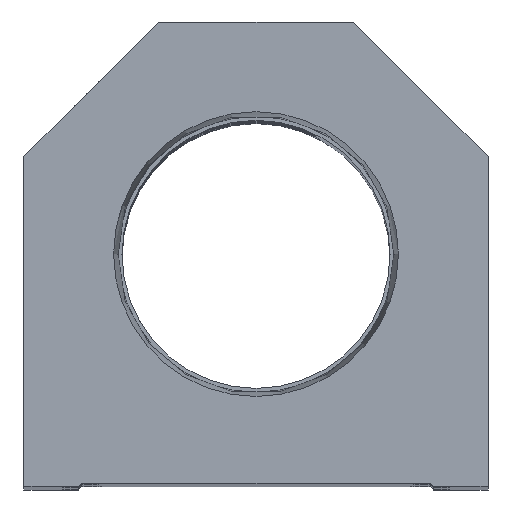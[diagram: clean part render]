
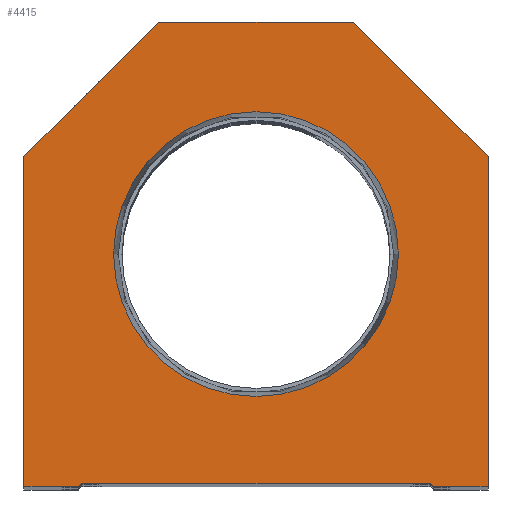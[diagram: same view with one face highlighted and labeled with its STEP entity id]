
A CAD part, top view. The second image highlights one B-rep face of the part: STEP entity #4415.
In plain terms, the highlighted planar face has unit normal (0, 0, 1).
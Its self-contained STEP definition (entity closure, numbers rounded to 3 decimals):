
#41 = DIRECTION ( 'NONE',  ( 1., 0., 0. ) ) ;
#334 = EDGE_CURVE ( 'NONE', #16894, #10172, #8206, .T. ) ;
#568 = CARTESIAN_POINT ( 'NONE',  ( -38.1, 54.1, 0. ) ) ;
#758 = VERTEX_POINT ( 'NONE', #21986 ) ;
#1358 = ORIENTED_EDGE ( 'NONE', *, *, #4092, .T. ) ;
#1848 = VERTEX_POINT ( 'NONE', #9852 ) ;
#1933 = CARTESIAN_POINT ( 'NONE',  ( 38.1, 54.1, 0. ) ) ;
#3726 = VECTOR ( 'NONE', #12339, 1000. ) ;
#4089 = CARTESIAN_POINT ( 'NONE',  ( -23.374, 38.1, 0. ) ) ;
#4092 = EDGE_CURVE ( 'NONE', #22520, #16894, #20643, .T. ) ;
#4389 = DIRECTION ( 'NONE',  ( 0., 1., 0. ) ) ;
#4412 = FACE_OUTER_BOUND ( 'NONE', #16828, .T. ) ;
#4415 = ADVANCED_FACE ( 'NONE', ( #13209, #4412 ), #16813, .T. ) ;
#4852 = ORIENTED_EDGE ( 'NONE', *, *, #17346, .T. ) ;
#5402 = VERTEX_POINT ( 'NONE', #17862 ) ;
#5440 = ORIENTED_EDGE ( 'NONE', *, *, #6380, .T. ) ;
#5486 = EDGE_CURVE ( 'NONE', #1848, #8161, #6583, .T. ) ;
#5493 = DIRECTION ( 'NONE',  ( 0., 0., 1. ) ) ;
#5560 = CARTESIAN_POINT ( 'NONE',  ( 29.1, 0., 0. ) ) ;
#5623 = DIRECTION ( 'NONE',  ( -1., 0., 0. ) ) ;
#6245 = VERTEX_POINT ( 'NONE', #22479 ) ;
#6380 = EDGE_CURVE ( 'NONE', #6245, #10244, #21266, .T. ) ;
#6428 = VECTOR ( 'NONE', #4389, 1000. ) ;
#6448 = DIRECTION ( 'NONE',  ( 1., 0., 0. ) ) ;
#6583 = CIRCLE ( 'NONE', #17396, 23.374 ) ;
#7215 = ORIENTED_EDGE ( 'NONE', *, *, #20734, .T. ) ;
#7353 = LINE ( 'NONE', #568, #17315 ) ;
#8161 = VERTEX_POINT ( 'NONE', #4089 ) ;
#8206 = LINE ( 'NONE', #18726, #20071 ) ;
#8295 = AXIS2_PLACEMENT_3D ( 'NONE', #12528, #5493, #41 ) ;
#8390 = EDGE_CURVE ( 'NONE', #8161, #1848, #19489, .T. ) ;
#8571 = DIRECTION ( 'NONE',  ( 1., 0., 0. ) ) ;
#9343 = DIRECTION ( 'NONE',  ( 0., 0., 1. ) ) ;
#9696 = EDGE_CURVE ( 'NONE', #12957, #22520, #10596, .T. ) ;
#9824 = CARTESIAN_POINT ( 'NONE',  ( 0., 0., 0. ) ) ;
#9852 = CARTESIAN_POINT ( 'NONE',  ( 23.374, 38.1, 0. ) ) ;
#10021 = EDGE_CURVE ( 'NONE', #758, #6245, #16787, .T. ) ;
#10078 = CARTESIAN_POINT ( 'NONE',  ( -14.55, 14.55, 0. ) ) ;
#10147 = CARTESIAN_POINT ( 'NONE',  ( 16., 76.2, 0. ) ) ;
#10172 = VERTEX_POINT ( 'NONE', #17024 ) ;
#10180 = LINE ( 'NONE', #11586, #11055 ) ;
#10244 = VERTEX_POINT ( 'NONE', #10147 ) ;
#10479 = ORIENTED_EDGE ( 'NONE', *, *, #9696, .T. ) ;
#10596 = LINE ( 'NONE', #20900, #22422 ) ;
#10738 = LINE ( 'NONE', #23027, #15863 ) ;
#11055 = VECTOR ( 'NONE', #16943, 1000. ) ;
#11456 = CARTESIAN_POINT ( 'NONE',  ( 0., 38.1, 0. ) ) ;
#11572 = EDGE_CURVE ( 'NONE', #12123, #12957, #10180, .T. ) ;
#11586 = CARTESIAN_POINT ( 'NONE',  ( -38.1, 0., 0. ) ) ;
#11689 = DIRECTION ( 'NONE',  ( 0., 0., 1. ) ) ;
#11811 = DIRECTION ( 'NONE',  ( 1., 0., 0. ) ) ;
#12123 = VERTEX_POINT ( 'NONE', #20050 ) ;
#12311 = ORIENTED_EDGE ( 'NONE', *, *, #21027, .T. ) ;
#12339 = DIRECTION ( 'NONE',  ( -0.707, 0.707, 0. ) ) ;
#12380 = VERTEX_POINT ( 'NONE', #5560 ) ;
#12528 = CARTESIAN_POINT ( 'NONE',  ( 0., 38.1, 0. ) ) ;
#12957 = VERTEX_POINT ( 'NONE', #21985 ) ;
#13074 = LINE ( 'NONE', #13200, #16111 ) ;
#13200 = CARTESIAN_POINT ( 'NONE',  ( 28.6, 0., 0. ) ) ;
#13209 = FACE_BOUND ( 'NONE', #20226, .T. ) ;
#14088 = DIRECTION ( 'NONE',  ( 0.707, -0.707, 0. ) ) ;
#14289 = CARTESIAN_POINT ( 'NONE',  ( 16., 76.2, 0. ) ) ;
#14409 = LINE ( 'NONE', #14289, #16089 ) ;
#15863 = VECTOR ( 'NONE', #14088, 1000. ) ;
#16089 = VECTOR ( 'NONE', #5623, 1000. ) ;
#16111 = VECTOR ( 'NONE', #16800, 1000. ) ;
#16610 = ORIENTED_EDGE ( 'NONE', *, *, #11572, .T. ) ;
#16673 = DIRECTION ( 'NONE',  ( -0.707, -0.707, 0. ) ) ;
#16787 = LINE ( 'NONE', #18648, #6428 ) ;
#16800 = DIRECTION ( 'NONE',  ( 1., 0., 0. ) ) ;
#16813 = PLANE ( 'NONE',  #20323 ) ;
#16828 = EDGE_LOOP ( 'NONE', ( #10479, #1358, #17242, #18633, #12311, #20473, #5440, #7215, #4852, #16610 ) ) ;
#16894 = VERTEX_POINT ( 'NONE', #20745 ) ;
#16943 = DIRECTION ( 'NONE',  ( 0., -1., 0. ) ) ;
#17004 = VECTOR ( 'NONE', #22154, 1000. ) ;
#17024 = CARTESIAN_POINT ( 'NONE',  ( 28.6, 0.5, 0. ) ) ;
#17216 = ORIENTED_EDGE ( 'NONE', *, *, #5486, .F. ) ;
#17242 = ORIENTED_EDGE ( 'NONE', *, *, #334, .T. ) ;
#17315 = VECTOR ( 'NONE', #16673, 1000. ) ;
#17346 = EDGE_CURVE ( 'NONE', #5402, #12123, #7353, .T. ) ;
#17396 = AXIS2_PLACEMENT_3D ( 'NONE', #11456, #9343, #19960 ) ;
#17862 = CARTESIAN_POINT ( 'NONE',  ( -16., 76.2, 0. ) ) ;
#18202 = EDGE_CURVE ( 'NONE', #10172, #12380, #10738, .T. ) ;
#18633 = ORIENTED_EDGE ( 'NONE', *, *, #18202, .T. ) ;
#18648 = CARTESIAN_POINT ( 'NONE',  ( 38.1, 0., 0. ) ) ;
#18726 = CARTESIAN_POINT ( 'NONE',  ( -28.6, 0.5, 0. ) ) ;
#19489 = CIRCLE ( 'NONE', #8295, 23.374 ) ;
#19642 = CARTESIAN_POINT ( 'NONE',  ( -29.1, 0., 0. ) ) ;
#19960 = DIRECTION ( 'NONE',  ( 1., 0., 0. ) ) ;
#20050 = CARTESIAN_POINT ( 'NONE',  ( -38.1, 54.1, 0. ) ) ;
#20071 = VECTOR ( 'NONE', #6448, 1000. ) ;
#20226 = EDGE_LOOP ( 'NONE', ( #17216, #21023 ) ) ;
#20323 = AXIS2_PLACEMENT_3D ( 'NONE', #9824, #11689, #11811 ) ;
#20473 = ORIENTED_EDGE ( 'NONE', *, *, #10021, .T. ) ;
#20643 = LINE ( 'NONE', #10078, #17004 ) ;
#20734 = EDGE_CURVE ( 'NONE', #10244, #5402, #14409, .T. ) ;
#20745 = CARTESIAN_POINT ( 'NONE',  ( -28.6, 0.5, 0. ) ) ;
#20900 = CARTESIAN_POINT ( 'NONE',  ( -28.6, 0., 0. ) ) ;
#21023 = ORIENTED_EDGE ( 'NONE', *, *, #8390, .F. ) ;
#21027 = EDGE_CURVE ( 'NONE', #12380, #758, #13074, .T. ) ;
#21266 = LINE ( 'NONE', #1933, #3726 ) ;
#21985 = CARTESIAN_POINT ( 'NONE',  ( -38.1, 0., 0. ) ) ;
#21986 = CARTESIAN_POINT ( 'NONE',  ( 38.1, 0., 0. ) ) ;
#22154 = DIRECTION ( 'NONE',  ( 0.707, 0.707, 0. ) ) ;
#22422 = VECTOR ( 'NONE', #8571, 1000. ) ;
#22479 = CARTESIAN_POINT ( 'NONE',  ( 38.1, 54.1, 0. ) ) ;
#22520 = VERTEX_POINT ( 'NONE', #19642 ) ;
#23027 = CARTESIAN_POINT ( 'NONE',  ( 14.55, 14.55, 0. ) ) ;
